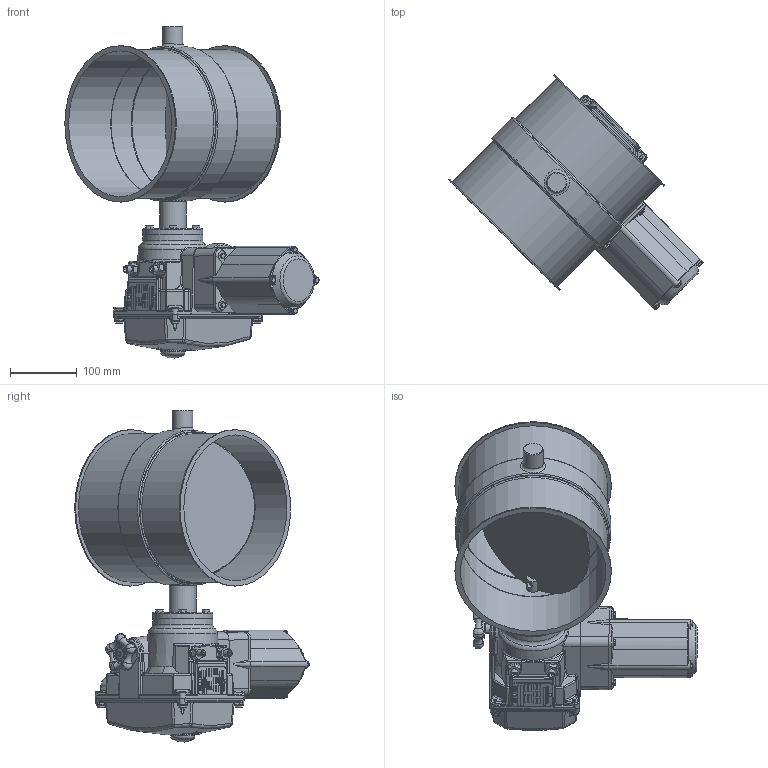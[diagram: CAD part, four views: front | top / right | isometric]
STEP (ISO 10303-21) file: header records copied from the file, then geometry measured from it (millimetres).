
FILE_DESCRIPTION((''),'2;1');
FILE_NAME('U:\Wolfgang\Marcel-3D\fertig\Kapitel 8\2221216.stp','2012-01-13T11:10:56',('iwienholt'),(''),'Autodesk Inventor 2010','Autodesk Inventor 2010','');
FILE_SCHEMA(('AUTOMOTIVE_DESIGN { 1 0 10303 214 1 1 1 1 }'));
Length unit declared in the file: millimetre
Products named in the file (8): 2221216; Bolzen D20; Scheibe224b; 2221210-1; D20 Antrieb LE-10; DIN EN ISO 4018 M6x25; LEB100cc; BuchseD20 90-50
Assembly tree (11 placements, depth 3):
  2221216
    Bolzen D20  x2
    Scheibe224b
    2221210-1
    D20 Antrieb LE-10
      DIN EN ISO 4018 M6x25  x4
      LEB100cc
      BuchseD20 90-50
Bounding box: 382.09 x 352.52 x 498.82 mm (x, y, z)
Volume: 5114105.6 mm3; surface area: 759503.8 mm2
Topology: 10 solids, 10 shells, 1489 faces, 3758 edges, 2362 vertices
Faces by surface type: plane 746, cylinder 290, bspline 239, torus 86, cone 83, sphere 45
Full cylindrical faces by diameter (mm): 5 x4, 5.1 x8, 6 x12, 6.9 x8, 10 x4, 15 x1, 16 x1, 17 x1, 18.6 x2, 20 x6, 20.5 x1, 30 x2, 35 x1, 40 x2, 42 x1, 90 x1, 219 x3, 220 x1, 223 x2, 228 x1, 229 x1, 233 x1, 235 x2
Entity records: 52260 total; most frequent: CARTESIAN_POINT 19616, ORIENTED_EDGE 6736, DIRECTION 5878, EDGE_CURVE 3368, VERTEX_POINT 2223, AXIS2_PLACEMENT_3D 2064, VECTOR 1750, LINE 1750
